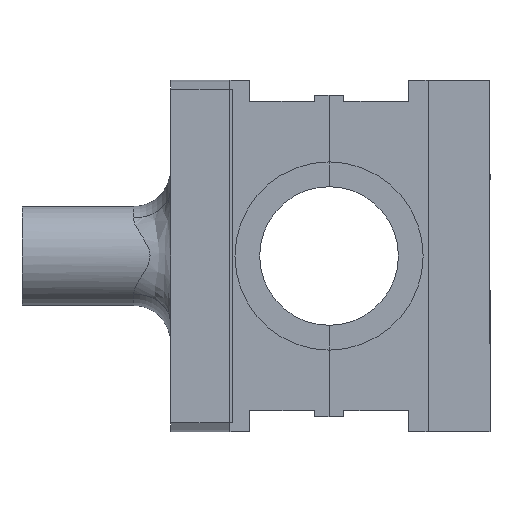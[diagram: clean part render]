
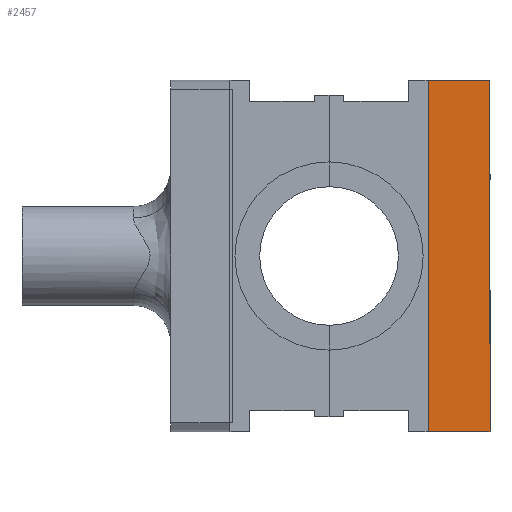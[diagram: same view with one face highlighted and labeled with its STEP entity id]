
A CAD part, front view. The second image highlights one B-rep face of the part: STEP entity #2457.
In plain terms, the highlighted planar face has unit normal (0, -1, 0).
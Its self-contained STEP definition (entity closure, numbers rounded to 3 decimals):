
#2061=CARTESIAN_POINT('',(25.0,-45.0,142.0));
#2062=VERTEX_POINT('',#2061);
#2069=CARTESIAN_POINT('',(25.,-45.0,-142.0));
#2070=VERTEX_POINT('',#2069);
#2071=CARTESIAN_POINT('',(25.0,-45.0,142.0));
#2072=DIRECTION('',(0.0,0.0,-1.0));
#2073=VECTOR('',#2072,284.0);
#2074=LINE('',#2071,#2073);
#2075=EDGE_CURVE('',#2062,#2070,#2074,.T.);
#2427=CARTESIAN_POINT('',(0.,-45.0,0.));
#2428=DIRECTION('',(0.0,1.0,0.0));
#2429=DIRECTION('',(0.0,0.0,1.0));
#2430=AXIS2_PLACEMENT_3D('',#2427,#2428,#2429);
#2431=PLANE('',#2430);
#2432=ORIENTED_EDGE('',*,*,#2075,.F.);
#2433=CARTESIAN_POINT('',(-25.0,-45.0,142.0));
#2434=VERTEX_POINT('',#2433);
#2435=CARTESIAN_POINT('',(-25.0,-45.0,142.0));
#2436=DIRECTION('',(1.0,0.0,0.0));
#2437=VECTOR('',#2436,50.0);
#2438=LINE('',#2435,#2437);
#2439=EDGE_CURVE('',#2434,#2062,#2438,.T.);
#2440=ORIENTED_EDGE('',*,*,#2439,.F.);
#2441=CARTESIAN_POINT('',(-25.,-45.0,-142.0));
#2442=VERTEX_POINT('',#2441);
#2443=CARTESIAN_POINT('',(-25.,-45.0,-142.0));
#2444=DIRECTION('',(0.0,0.0,1.0));
#2445=VECTOR('',#2444,284.0);
#2446=LINE('',#2443,#2445);
#2447=EDGE_CURVE('',#2442,#2434,#2446,.T.);
#2448=ORIENTED_EDGE('',*,*,#2447,.F.);
#2449=CARTESIAN_POINT('',(25.,-45.0,-142.));
#2450=DIRECTION('',(-1.0,0.0,0.0));
#2451=VECTOR('',#2450,50.0);
#2452=LINE('',#2449,#2451);
#2453=EDGE_CURVE('',#2070,#2442,#2452,.T.);
#2454=ORIENTED_EDGE('',*,*,#2453,.F.);
#2455=EDGE_LOOP('',(#2432,#2440,#2448,#2454));
#2456=FACE_OUTER_BOUND('',#2455,.T.);
#2457=ADVANCED_FACE('',(#2456),#2431,.F.);
